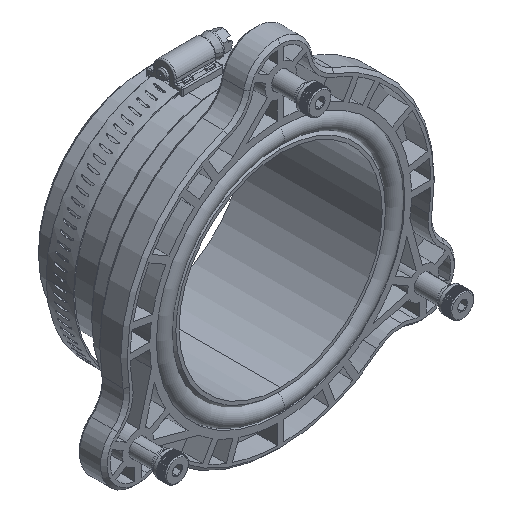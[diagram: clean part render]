
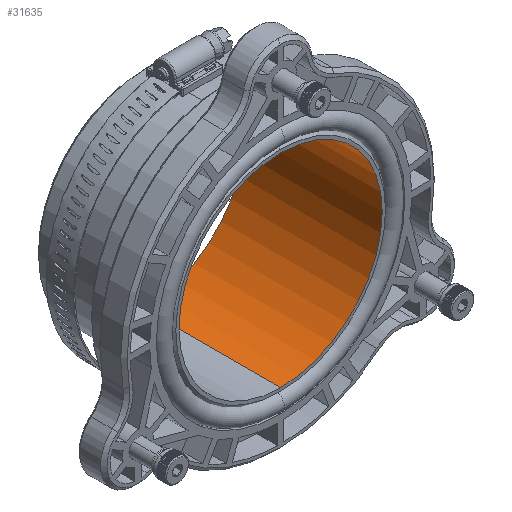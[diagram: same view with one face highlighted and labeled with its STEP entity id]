
A CAD part, isometric view. The second image highlights one B-rep face of the part: STEP entity #31635.
In plain terms, the highlighted cylindrical face has radius 47 mm (diameter 94 mm), a partial arc.
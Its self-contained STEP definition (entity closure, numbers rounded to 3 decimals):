
#4 = VECTOR ( 'NONE', #30744, 1000. ) ;
#2210 = DIRECTION ( 'NONE',  ( 0., 0., -1. ) ) ;
#3310 = LINE ( 'NONE', #17165, #4 ) ;
#5116 = CYLINDRICAL_SURFACE ( 'NONE', #13358, 47. ) ;
#5313 = AXIS2_PLACEMENT_3D ( 'NONE', #35574, #32019, #18658 ) ;
#5949 = EDGE_LOOP ( 'NONE', ( #38583, #39362, #16799, #13318 ) ) ;
#9609 = CIRCLE ( 'NONE', #5313, 47. ) ;
#13318 = ORIENTED_EDGE ( 'NONE', *, *, #34857, .F. ) ;
#13358 = AXIS2_PLACEMENT_3D ( 'NONE', #19206, #32777, #2210 ) ;
#16276 = CIRCLE ( 'NONE', #32610, 47. ) ;
#16799 = ORIENTED_EDGE ( 'NONE', *, *, #28024, .T. ) ;
#17165 = CARTESIAN_POINT ( 'NONE',  ( 0., 63.5, 47. ) ) ;
#18658 = DIRECTION ( 'NONE',  ( 0., 0., 1. ) ) ;
#19206 = CARTESIAN_POINT ( 'NONE',  ( 0., 63.5, 0. ) ) ;
#20226 = CARTESIAN_POINT ( 'NONE',  ( 0., 0., 47. ) ) ;
#21624 = VERTEX_POINT ( 'NONE', #20226 ) ;
#23402 = LINE ( 'NONE', #26508, #33975 ) ;
#24217 = DIRECTION ( 'NONE',  ( 0., 1., 0. ) ) ;
#25213 = CARTESIAN_POINT ( 'NONE',  ( 0., 63.5, -47. ) ) ;
#26508 = CARTESIAN_POINT ( 'NONE',  ( 0., 63.5, -47. ) ) ;
#26714 = CARTESIAN_POINT ( 'NONE',  ( 0., 63.5, 47. ) ) ;
#27533 = CARTESIAN_POINT ( 'NONE',  ( 0., 0., 0. ) ) ;
#27741 = DIRECTION ( 'NONE',  ( 0., 0., 1. ) ) ;
#28024 = EDGE_CURVE ( 'NONE', #32973, #33706, #23402, .T. ) ;
#30744 = DIRECTION ( 'NONE',  ( 0., -1., 0. ) ) ;
#31635 = ADVANCED_FACE ( 'NONE', ( #39460 ), #5116, .F. ) ;
#32019 = DIRECTION ( 'NONE',  ( 0., 1., 0. ) ) ;
#32610 = AXIS2_PLACEMENT_3D ( 'NONE', #27533, #24217, #27741 ) ;
#32777 = DIRECTION ( 'NONE',  ( 0., -1., 0. ) ) ;
#32973 = VERTEX_POINT ( 'NONE', #25213 ) ;
#33706 = VERTEX_POINT ( 'NONE', #42013 ) ;
#33975 = VECTOR ( 'NONE', #40085, 1000. ) ;
#34857 = EDGE_CURVE ( 'NONE', #21624, #33706, #16276, .T. ) ;
#35574 = CARTESIAN_POINT ( 'NONE',  ( 0., 63.5, 0. ) ) ;
#38349 = EDGE_CURVE ( 'NONE', #43969, #21624, #3310, .T. ) ;
#38583 = ORIENTED_EDGE ( 'NONE', *, *, #38349, .F. ) ;
#39362 = ORIENTED_EDGE ( 'NONE', *, *, #43323, .T. ) ;
#39460 = FACE_OUTER_BOUND ( 'NONE', #5949, .T. ) ;
#40085 = DIRECTION ( 'NONE',  ( 0., -1., 0. ) ) ;
#42013 = CARTESIAN_POINT ( 'NONE',  ( 0., 0., -47. ) ) ;
#43323 = EDGE_CURVE ( 'NONE', #43969, #32973, #9609, .T. ) ;
#43969 = VERTEX_POINT ( 'NONE', #26714 ) ;
